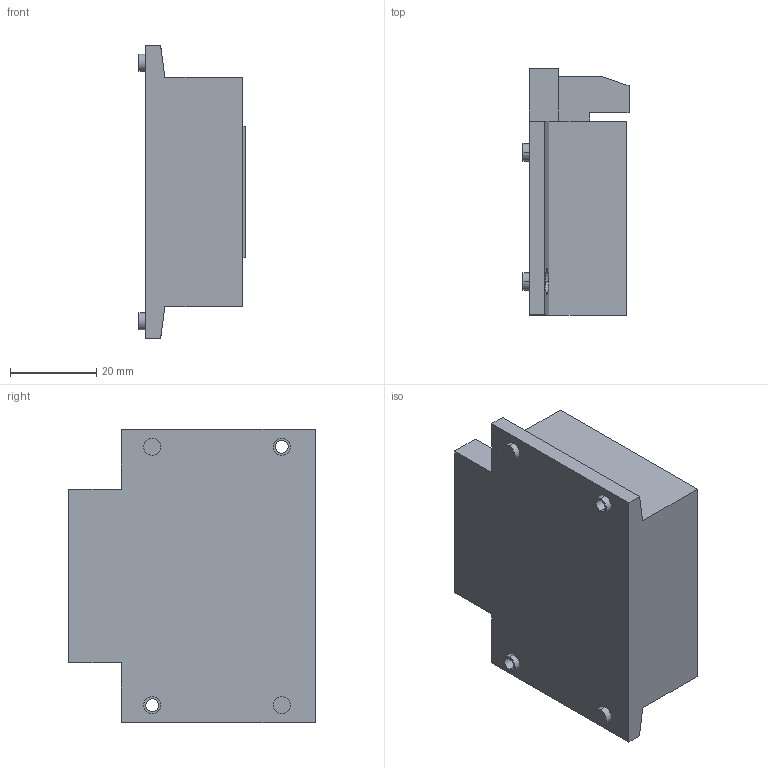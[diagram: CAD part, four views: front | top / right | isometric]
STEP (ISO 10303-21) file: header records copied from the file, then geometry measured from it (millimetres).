
FILE_DESCRIPTION((''),'2;1');
FILE_NAME('535742','2018-02-07T',('Putzk'),('SEDLBAUER EKS GmbH'),'PRO/ENGINEER BY PARAMETRIC TECHNOLOGY CORPORATION, 2017170','PRO/ENGINEER BY PARAMETRIC TECHNOLOGY CORPORATION, 2017170','');
FILE_SCHEMA(('CONFIG_CONTROL_DESIGN'));
Length unit declared in the file: millimetre
Products named in the file (1): 535742
Bounding box: 24.6 x 57.2 x 68 mm (x, y, z)
Volume: 63063.3 mm3; surface area: 14074.1 mm2
Topology: 1 solids, 1 shells, 88 faces, 213 edges, 142 vertices
Faces by surface type: plane 60, cylinder 28
Entity records: 3784 total; most frequent: CARTESIAN_POINT 655, DIRECTION 437, ORIENTED_EDGE 426, PRESENTATION_STYLE_ASSIGNMENT 222, COLOUR_RGB 215, STYLED_ITEM 214, CURVE_STYLE 213, EDGE_CURVE 213
